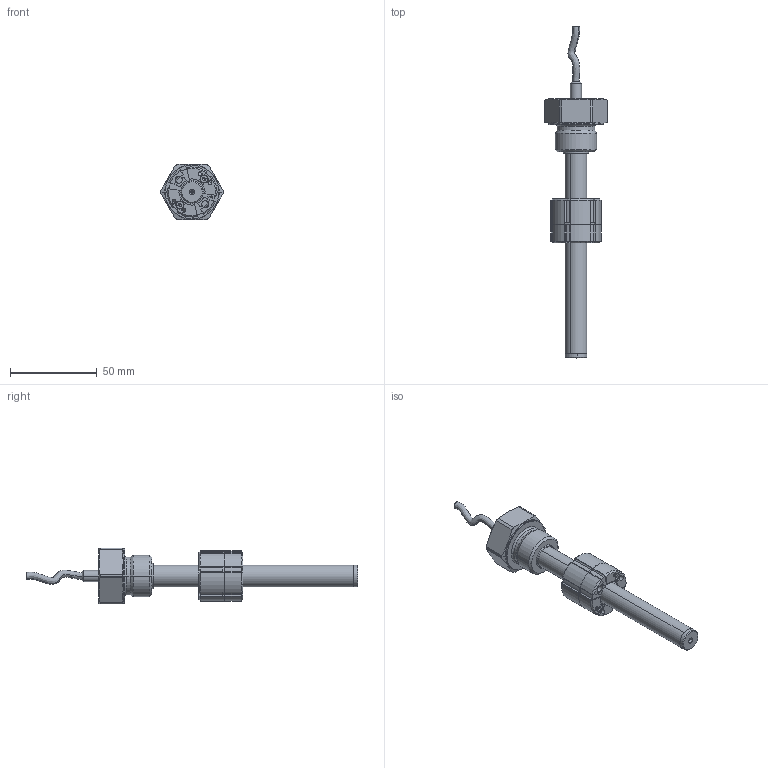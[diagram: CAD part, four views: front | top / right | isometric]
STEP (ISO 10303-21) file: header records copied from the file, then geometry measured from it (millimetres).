
FILE_DESCRIPTION (( 'STEP AP203' ), '1' );
FILE_NAME ('PMISLE-F-0050-M.STEP', '2013-05-07T14:28:06', ( 'User' ), ( '' ), 'SwSTEP 2.0', 'SolidWorks 2013', '' );
FILE_SCHEMA (( 'CONFIG_CONTROL_DESIGN' ));
Length unit declared in the file: millimetre
Products named in the file (12): CUS846X; MIM803X_MIM803; CUS847X; INS003X; PCUR010X; TUB535X; TERMORX; PUN016X; NIP601X; TAP014X; PMISLE-F-0050-M; PMI-SLIM cavoX
Assembly tree (13 placements, depth 3):
  PMISLE-F-0050-M
    TUB535X
    PUN016X
    TAP014X
    PMI-SLIM cavoX
    PCUR010X
      CUS846X
      MIM803X_MIM803  x2
      CUS847X
      INS003X  x2
    TERMORX
    NIP601X
Bounding box: 36 x 191.87 x 32 mm (x, y, z)
Volume: 46717.3 mm3; surface area: 20610.7 mm2
Topology: 12 solids, 12 shells, 976 faces, 2589 edges, 1639 vertices
Faces by surface type: cone 392, cylinder 373, plane 195, torus 10, bspline 6
Entity records: 23627 total; most frequent: CARTESIAN_POINT 4420, DIRECTION 4109, ORIENTED_EDGE 3650, EDGE_CURVE 1825, AXIS2_PLACEMENT_3D 1621, VERTEX_POINT 1168, CIRCLE 928, VECTOR 867
